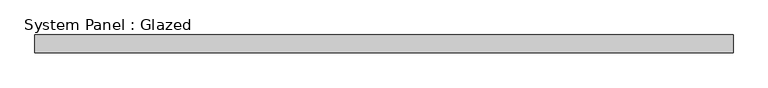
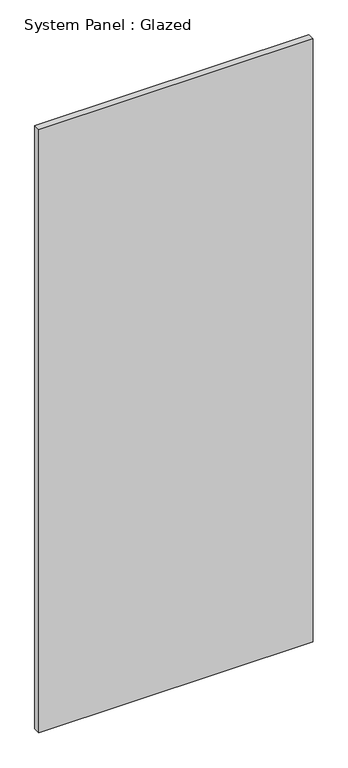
"""IFC4 building model written with IfcOpenShell, lengths in millimetres: plate geometry, System Panel : Glazed."""

from ifc_helpers import new_model, si_unit, origin, origin_with_axes, place, context, project, spatial, polyline, outline, extrude, source, transform, mapped, element, save


def system_panel_glazed_07a1997d(model_context):
    return source(origin(), model_context, "Body", "SweptSolid", [
        extrude(outline(polyline([(503.9089253, 19.05), (-503.9089253, 19.05), (-503.9089253, 44.45), (503.9089253, 44.45), (503.9089253, 19.05)])), origin_with_axes(), (0.0, 0.0, 1.0), 2343.15),
    ])


if __name__ == "__main__":
    model = new_model("IFC4")
    model_context = context("Model", 3, world=origin())
    ifc_project = project(units=[si_unit("LENGTHUNIT", "METRE", prefix="MILLI")], contexts=[model_context])
    site = spatial("IfcSite", under=ifc_project)
    building = spatial("IfcBuilding", under=site)
    placement = place(None, origin())
    system_panel_glazed_shape = system_panel_glazed_07a1997d(model_context)
    element("IfcPlate", 1, ObjectType="System Panel : Glazed", at=placement, inside=building, context=model_context, shape_type="MappedRepresentation", body=[
        mapped(system_panel_glazed_shape, transform((0.0, 0.0, 0.0), x_axis=(1.0, 0.0, 0.0), y_axis=(0.0, 1.0, 0.0), z_axis=(0.0, 0.0, 1.0))),
    ])
    save(model, "model.ifc")
